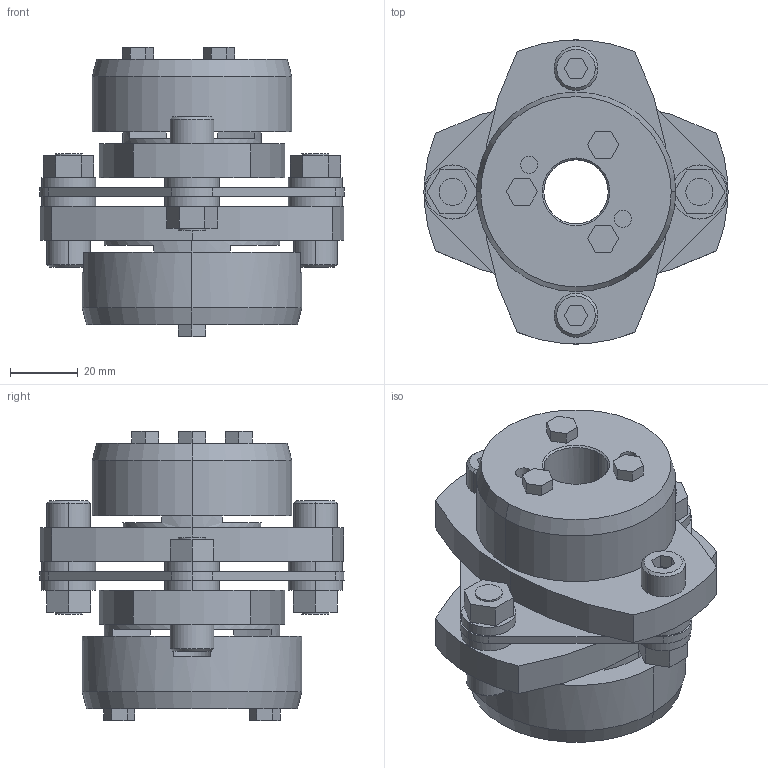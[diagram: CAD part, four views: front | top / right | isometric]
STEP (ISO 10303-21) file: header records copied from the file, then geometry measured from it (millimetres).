
FILE_DESCRIPTION((''),'2;1');
FILE_NAME('LCS-90T7-19×28.stp','2015-11-01T20:16:04',(''),(''),'AutoCAD STEP 2000i','AutoCAD 2000i',', , ');
FILE_SCHEMA(('CONFIG_CONTROL_DESIGN'));
Length unit declared in the file: millimetre
Products named in the file (9): LCS-90T7-19×30; 忣兜1; LC90T7-T030; LC90T7-T025; LC90T7-T019-1; LC90T7-T019; LC90-B019-1; LC90-B019; LCS90-ITA
Assembly tree (8 placements, depth 2):
  LCS-90T7-19×30
    忣兜1
    LC90T7-T030
    LC90T7-T025
    LC90T7-T019-1
    LC90T7-T019
    LC90-B019-1
    LC90-B019
    LCS90-ITA
Bounding box: 90 x 89.94 x 85.5 mm (x, y, z)
Volume: 211097.6 mm3; surface area: 53439.8 mm2
Topology: 1 solids, 1 shells, 229 faces, 562 edges, 368 vertices
Faces by surface type: plane 127, cylinder 82, cone 20
Entity records: 7023 total; most frequent: DIRECTION 1242, CARTESIAN_POINT 1168, ORIENTED_EDGE 1124, EDGE_CURVE 562, AXIS2_PLACEMENT_3D 442, VERTEX_POINT 368, VECTOR 358, LINE 358
